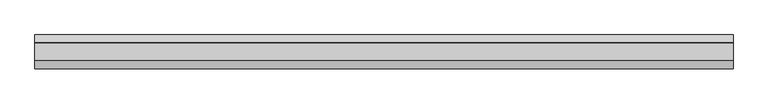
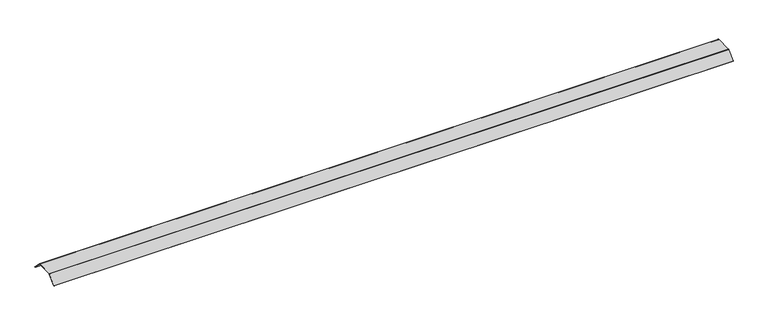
"""IFC4 building model written with IfcOpenShell, lengths in millimetres: proxy geometry, Electrical_Installation_Hager_Blank-Cover-800mm-Double-Sided-Height-70mm : Electrical_Installation_Hager_Blank-Cover-800mm-Double-Sided-Height-70mm."""

import ifcopenshell
import ifcopenshell.guid

model = None  # the IFC model being written
_history = None  # IfcOwnerHistory: only IFC2X3 demands one
_inside = {}  # id of a spatial element -> (the spatial element, [elements in it])
_under = {}  # id of a project, library or spatial element -> (it, [spatial elements below it])
_declared = {}  # id of a project -> (the project, [libraries it declares])
_typed = {}  # id of a type object -> (the type object, [elements of that type])
_made_of = {}  # id of a material, layer set ... -> (it, [elements and type objects made of it])


def new_model(schema):
    """Start an empty IFC model of exactly this schema.

    Asked for "IFC4X3", IfcOpenShell would pick the latest addendum, in which some entities
    have other attributes; the version numbers below select the first issue.
    IFC2X3 requires an IfcOwnerHistory on every rooted entity: one is made here for all.
    """
    global model, _history
    if schema == "IFC4X3":
        model = ifcopenshell.file(schema_version=(4, 3, 0, 0))
    else:
        model = ifcopenshell.file(schema=schema)
    _inside.clear()
    _under.clear()
    _declared.clear()
    _typed.clear()
    _made_of.clear()
    _history = None
    if model.schema == "IFC2X3":
        org = make("IfcOrganization", Name="unknown")
        user = make(
            "IfcPersonAndOrganization",
            ThePerson=make("IfcPerson", FamilyName="unknown"),
            TheOrganization=org,
        )
        app = make(
            "IfcApplication",
            ApplicationDeveloper=org,
            Version="unknown",
            ApplicationFullName="unknown",
            ApplicationIdentifier="unknown",
        )
        _history = make(
            "IfcOwnerHistory",
            OwningUser=user,
            OwningApplication=app,
            ChangeAction="ADDED",
            CreationDate=0,
        )
    return model


def make(cls, **values):
    """One entity of the class cls with the attributes given. An attribute that is None is left unset."""
    return model.create_entity(
        cls, **{name: value for name, value in values.items() if value is not None}
    )


def rooted(cls, **values):
    """An entity with a GlobalId (a new one), such as an element, a storey or a relation."""
    return make(cls, GlobalId=ifcopenshell.guid.new(), OwnerHistory=_history, **values)


def si_unit(unit_type, name, prefix=None):
    """IfcSIUnit, for example si_unit("LENGTHUNIT", "METRE", prefix="MILLI")."""
    return make("IfcSIUnit", UnitType=unit_type, Prefix=prefix, Name=name)


def assignment(units):
    """IfcUnitAssignment: the units of a project."""
    return None if units is None else make("IfcUnitAssignment", Units=units)


def point(xyz):
    """IfcCartesianPoint."""
    return None if xyz is None else make("IfcCartesianPoint", Coordinates=xyz)


def direction(xyz):
    """IfcDirection."""
    return None if xyz is None else make("IfcDirection", DirectionRatios=xyz)


def frame(location, z_axis=None, x_axis=None):
    """IfcAxis2Placement3D, a coordinate frame: its origin and axes. An axis left out is left unset."""
    return make(
        "IfcAxis2Placement3D",
        Location=point(location),
        Axis=direction(z_axis),
        RefDirection=direction(x_axis),
    )


def frame_2d(location, x_axis=None):
    """IfcAxis2Placement2D, a coordinate frame in the plane: its origin and x axis."""
    return make(
        "IfcAxis2Placement2D", Location=point(location), RefDirection=direction(x_axis)
    )


def origin():
    """The frame at (0, 0, 0) with its axes left unset."""
    return frame((0.0, 0.0, 0.0))


def place(relative_to, where):
    """IfcLocalPlacement: puts the frame where relative to a parent placement (None: the world)."""
    return make(
        "IfcLocalPlacement", PlacementRelTo=relative_to, RelativePlacement=where
    )


def context(
    kind, dimensions, precision=None, world=None, true_north=None, identifier=None
):
    """IfcGeometricRepresentationContext, for example the 3D "Model" context."""
    return make(
        "IfcGeometricRepresentationContext",
        ContextIdentifier=identifier,
        ContextType=kind,
        CoordinateSpaceDimension=dimensions,
        Precision=precision,
        WorldCoordinateSystem=world,
        TrueNorth=true_north,
    )


def project(units=None, contexts=None):
    """IfcProject with its units and contexts."""
    return rooted(
        "IfcProject",
        Name="project",
        RepresentationContexts=contexts,
        UnitsInContext=assignment(units),
    )


def spatial(cls, under=None, at=None, **own):
    """A site, building, storey or space (cls), placed at a placement, below another one or the project."""
    s = rooted(cls, ObjectPlacement=at, **own)
    if under is not None:
        _under.setdefault(under.id(), (under, []))[1].append(s)
    return s


def polyline(points):
    """IfcPolyline through the points."""
    return make("IfcPolyline", Points=[point(p) for p in points])


def circle_curve(where, radius):
    """IfcCircle in the frame where."""
    return make("IfcCircle", Position=where, Radius=radius)


def trimmed(basis, trim1, trim2, sense, master):
    """IfcTrimmedCurve: the piece of a basis curve between two trims."""
    return make(
        "IfcTrimmedCurve",
        BasisCurve=basis,
        Trim1=trim1,
        Trim2=trim2,
        SenseAgreement=sense,
        MasterRepresentation=master,
    )


def segment(curve, same_sense, transition):
    """IfcCompositeCurveSegment."""
    return make(
        "IfcCompositeCurveSegment",
        Transition=transition,
        SameSense=same_sense,
        ParentCurve=curve,
    )


def composite_curve(segments, self_intersect=None):
    """IfcCompositeCurve: segments joined end to end."""
    return make("IfcCompositeCurve", Segments=segments, SelfIntersect=self_intersect)


def outline(outer, holes=None, kind="AREA"):
    """IfcArbitraryClosedProfileDef: a profile drawn as a closed curve; with holes, ...WithVoids."""
    if holes is None:
        return make("IfcArbitraryClosedProfileDef", ProfileType=kind, OuterCurve=outer)
    return make(
        "IfcArbitraryProfileDefWithVoids",
        ProfileType=kind,
        OuterCurve=outer,
        InnerCurves=holes,
    )


def extrude(swept, where, along, depth):
    """IfcExtrudedAreaSolid: the profile swept, set in the frame where, extruded along a direction by depth."""
    return make(
        "IfcExtrudedAreaSolid",
        SweptArea=swept,
        Position=where,
        ExtrudedDirection=direction(along),
        Depth=depth,
    )


def shape(context_of_items, identifier, shape_type, items):
    """IfcShapeRepresentation: the items that make up one representation, for example the "Body"."""
    return make(
        "IfcShapeRepresentation",
        ContextOfItems=context_of_items,
        RepresentationIdentifier=identifier,
        RepresentationType=shape_type,
        Items=items,
    )


def source(mapping_origin, context_of_items, identifier, shape_type, items):
    """IfcRepresentationMap: a shape defined once, which mapped items show again and again."""
    return make(
        "IfcRepresentationMap",
        MappingOrigin=mapping_origin,
        MappedRepresentation=shape(context_of_items, identifier, shape_type, items),
    )


def transform(
    local_origin,
    x_axis=None,
    y_axis=None,
    z_axis=None,
    scale=None,
    scale2=None,
    scale3=None,
    uniform=True,
):
    """IfcCartesianTransformationOperator3D, or its non-uniform kind. x_axis, y_axis, z_axis: its Axis1, 2, 3."""
    if uniform:
        return make(
            "IfcCartesianTransformationOperator3D",
            Axis1=direction(x_axis),
            Axis2=direction(y_axis),
            LocalOrigin=point(local_origin),
            Scale=scale,
            Axis3=direction(z_axis),
        )
    return make(
        "IfcCartesianTransformationOperator3DnonUniform",
        Axis1=direction(x_axis),
        Axis2=direction(y_axis),
        LocalOrigin=point(local_origin),
        Scale=scale,
        Axis3=direction(z_axis),
        Scale2=scale2,
        Scale3=scale3,
    )


def mapped(mapping_source, mapping_target):
    """IfcMappedItem: shows the shape of a source again, moved by a transform."""
    return make(
        "IfcMappedItem", MappingSource=mapping_source, MappingTarget=mapping_target
    )


def made_of(thing, what):
    """Note that an element or type object is made of a material, layer set ...; save() writes the relation."""
    if what is not None:
        _made_of.setdefault(what.id(), (what, []))[1].append(thing)
    return thing


def element(
    cls,
    number,
    at=None,
    inside=None,
    cuts=None,
    type_object=None,
    material=None,
    context=None,
    identifier="Body",
    shape_type=None,
    held_by="IfcProductDefinitionShape",
    body=None,
    shapes=None,
    **own,
):
    """One element of the class cls, such as IfcWall. Its Tag is "e" and its number.

    at: its placement. inside: the storey or other place that contains it. cuts: it is an
    opening in that element (IfcRelVoidsElement). A single representation is given by context,
    identifier, shape_type and body (its items); several are given by shapes. held_by: the class
    of the entity that holds the representations. save() writes the other relations.
    """
    e = rooted(cls, Tag="e%d" % number, ObjectPlacement=at, **own)
    if body is not None:
        shapes = [shape(context, identifier, shape_type, body)]
    if shapes is not None:
        e.Representation = make(held_by, Representations=shapes)
    if inside is not None:
        _inside.setdefault(inside.id(), (inside, []))[1].append(e)
    if cuts is not None:
        rooted(
            "IfcRelVoidsElement", RelatingBuildingElement=cuts, RelatedOpeningElement=e
        )
    if type_object is not None:
        _typed.setdefault(type_object.id(), (type_object, []))[1].append(e)
    return made_of(e, material)


def aggregate(whole, parts):
    """IfcRelAggregates: a whole, such as a stair, and the parts it consists of."""
    return rooted("IfcRelAggregates", RelatingObject=whole, RelatedObjects=parts)


def save(model, path):
    """Write the relations noted so far, then the file.

    IfcRelAggregates (storeys below a building ...), IfcRelContainedInSpatialStructure (elements
    in a storey), IfcRelDefinesByType, IfcRelAssociatesMaterial and IfcRelDeclares: one each for
    every whole, place, type object, material and project.
    """
    for whole, parts in _under.values():
        aggregate(whole, parts)
    for where, things in _inside.values():
        rooted(
            "IfcRelContainedInSpatialStructure",
            RelatedElements=things,
            RelatingStructure=where,
        )
    for kind, things in _typed.values():
        rooted("IfcRelDefinesByType", RelatedObjects=things, RelatingType=kind)
    for what, things in _made_of.values():
        rooted("IfcRelAssociatesMaterial", RelatedObjects=things, RelatingMaterial=what)
    for by, libraries in _declared.values():
        rooted("IfcRelDeclares", RelatingContext=by, RelatedDefinitions=libraries)
    model.write(path)


def electrical_fixtures_71575465(model_context):
    return source(origin(), model_context, "Body", "SweptSolid", [
        extrude(outline(composite_curve([segment(trimmed(circle_curve(frame_2d((75.0, 36.5)), 4.0), [point((75.0, 40.5))], [point((77.8284271, 39.3284271))], False, "CARTESIAN"), True, "CONTINUOUS"), segment(polyline([(77.8284271, 39.3284271), (145.78408, -28.6272257), (143.6627596, -30.7485461), (75.996177, 36.9180366)]), True, "CONTINUOUS"), segment(trimmed(circle_curve(frame_2d((74.591193, 35.5130527)), 1.9869473), [point((75.996177, 36.9180366))], [point((74.591193, 37.5))], True, "CARTESIAN"), True, "CONTINUOUS"), segment(polyline([(74.591193, 37.5), (-74.8229541, 37.5)]), True, "CONTINUOUS"), segment(trimmed(circle_curve(frame_2d((-74.8229541, 36.0725733)), 1.4274267), [point((-74.8229541, 37.5))], [point((-75.8322972, 37.0819164))], True, "CARTESIAN"), True, "CONTINUOUS"), segment(polyline([(-75.8322972, 37.0819164), (-143.6627596, -30.7485461), (-145.78408, -28.6272257), (-77.8206472, 39.336207)]), True, "CONTINUOUS"), segment(trimmed(circle_curve(frame_2d((-75.0110025, 36.5265623)), 3.9734377), [point((-77.8206472, 39.336207))], [point((-75.0110025, 40.5))], False, "CARTESIAN"), True, "CONTINUOUS"), segment(polyline([(-75.0110025, 40.5), (75.0, 40.5)]), True, "CONTINUOUS")], self_intersect=False)), frame((0.0, 0.0, 0.0), z_axis=(1.0, 0.0, 0.0), x_axis=(0.0, 1.0, 0.0)), (0.0, 0.0, 1.0), 6011.6956759),
    ])


if __name__ == "__main__":
    model = new_model("IFC4")
    model_context = context("Model", 3, world=origin())
    ifc_project = project(units=[si_unit("LENGTHUNIT", "METRE", prefix="MILLI")], contexts=[model_context])
    site = spatial("IfcSite", under=ifc_project)
    building = spatial("IfcBuilding", under=site)
    placement = place(None, origin())
    electrical_fixtures_shape = electrical_fixtures_71575465(model_context)
    element("IfcBuildingElementProxy", 1, Name="Electrical_Installation_Hager_Blank-Cover-800mm-Double-Sided-Height-70mm : Electrical_Installation_Hager_Blank-Cover-800mm-Double-Sided-Height-70mm", ObjectType="Electrical_Installation_Hager_Blank-Cover-800mm-Double-Sided-Height-70mm : Electrical_Installation_Hager_Blank-Cover-800mm-Double-Sided-Height-70mm", at=placement, inside=building, context=model_context, shape_type="MappedRepresentation", body=[
        mapped(electrical_fixtures_shape, transform((0.0, 0.0, 0.0), x_axis=(1.0, 0.0, 0.0), y_axis=(0.0, 1.0, 0.0), z_axis=(0.0, 0.0, 1.0))),
    ])
    save(model, "model.ifc")
